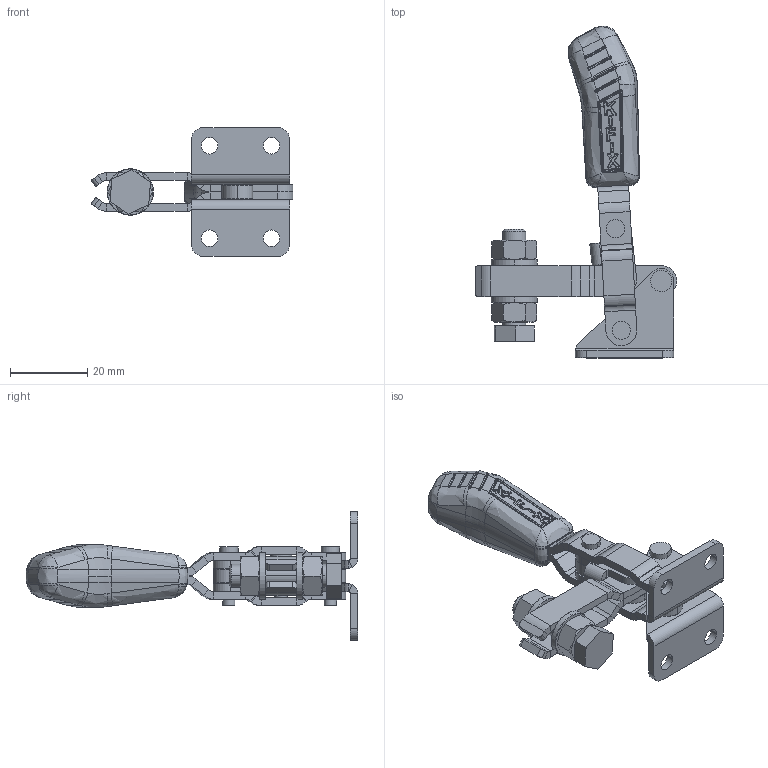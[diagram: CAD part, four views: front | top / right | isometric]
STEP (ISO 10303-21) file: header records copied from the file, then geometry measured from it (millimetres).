
FILE_DESCRIPTION (( 'STEP AP203' ), '1' );
FILE_NAME ('KF-010 DB.STEP', '2014-07-28T12:06:13', ( 'Ricardo' ), ( '' ), 'SwSTEP 2.0', 'SolidWorks 2013', '' );
FILE_SCHEMA (( 'CONFIG_CONTROL_DESIGN' ));
Length unit declared in the file: millimetre
Products named in the file (13): 02.12013_Esquerda; 05.20011; 03.13012; 17.50001; 01.10119; 12.50006; 04.10005; 11.50001; 07.60004; KF-010 DB; 06.50003; 02.12013_Direita; 06.50012
Assembly tree (19 placements, depth 2):
  KF-010 DB
    02.12013_Direita
    02.12013_Esquerda
    03.13012  x2
    01.10119  x2
    04.10005
    06.50003  x2
    06.50012  x2
    05.20011  x2
    17.50001  x2
    12.50006
    11.50001  x2
    07.60004
Bounding box: 52.09 x 85.77 x 33.3 mm (x, y, z)
Volume: 15374.6 mm3; surface area: 15393.3 mm2
Topology: 21 solids, 21 shells, 1137 faces, 2738 edges, 1636 vertices
Faces by surface type: plane 384, cylinder 378, bspline 258, cone 62, sphere 52, torus 3
Entity records: 34227 total; most frequent: CARTESIAN_POINT 12423, ORIENTED_EDGE 4702, DIRECTION 3636, EDGE_CURVE 2351, VERTEX_POINT 1418, AXIS2_PLACEMENT_3D 1398, EDGE_LOOP 1021, ADVANCED_FACE 970
